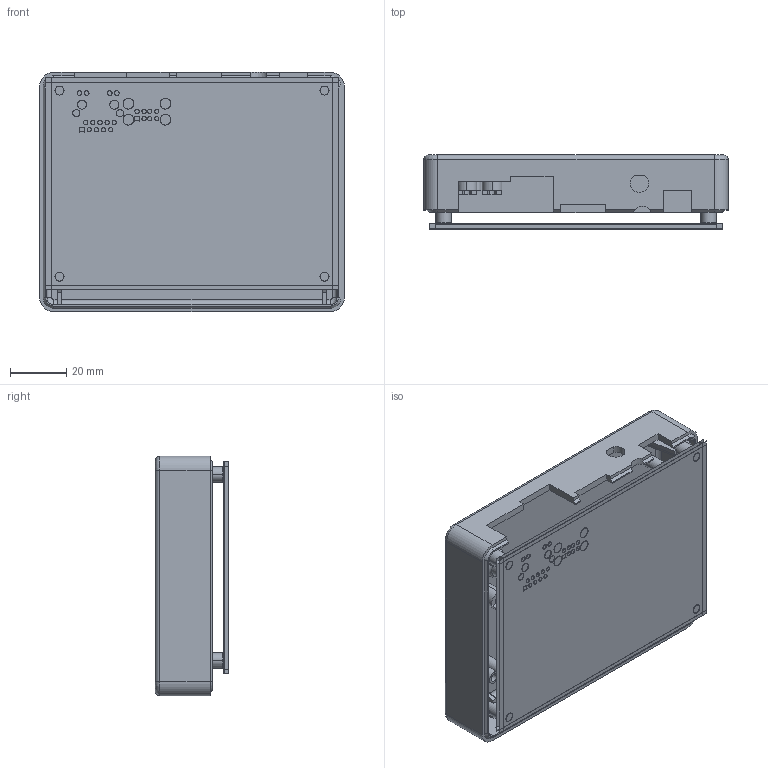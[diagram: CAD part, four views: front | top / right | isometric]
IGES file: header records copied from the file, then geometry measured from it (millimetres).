
Start section:  PTC IGES file: 64001220_cover_cc6_sbc_v3.igs
Global section: file name: 64001220_cover_cc6_sbc_v3.igs; native system: Creo Parametric by Parametric Technology Corporation; preprocessor: 2015200; author: mlarsen; organization: Unknown; date: 20160525.125719; units: millimetre
Bounding box: 108 x 26.17 x 85 mm (x, y, z)
Volume: 41411.9 mm3; surface area: 81909.3 mm2
Topology: 1 solids, 2 shells, 372 faces, 1484 edges, 1560 vertices
Faces by surface type: revolution 214, bspline 158
